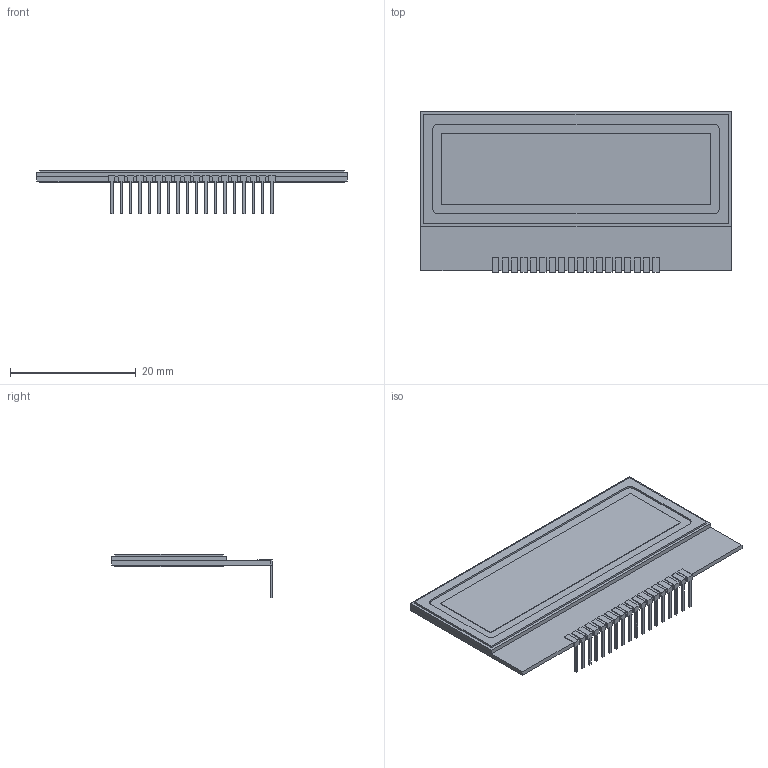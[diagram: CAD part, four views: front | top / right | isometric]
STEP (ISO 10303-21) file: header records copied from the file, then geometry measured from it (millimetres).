
FILE_DESCRIPTION (( 'STEP AP203' ), '1' );
FILE_NAME ('NHD-C0216BA-FN-GBW_Rev1A.STEP', '2025-08-04T15:43:43', ( '' ), ( '' ), 'SwSTEP 2.0', 'SolidWorks 2019', '' );
FILE_SCHEMA (( 'CONFIG_CONTROL_DESIGN' ));
Length unit declared in the file: millimetre
Products named in the file (1): NHD-C0216BA-FN-GBW_Rev1A
Bounding box: 49.4 x 25.6 x 6.9 mm (x, y, z)
Volume: 2472 mm3; surface area: 4894.8 mm2
Topology: 2 solids, 2 shells, 252 faces, 732 edges, 488 vertices
Faces by surface type: plane 248, cylinder 4
Entity records: 8219 total; most frequent: CARTESIAN_POINT 1473, ORIENTED_EDGE 1464, DIRECTION 1246, EDGE_CURVE 732, VECTOR 724, LINE 724, VERTEX_POINT 488, AXIS2_PLACEMENT_3D 261
